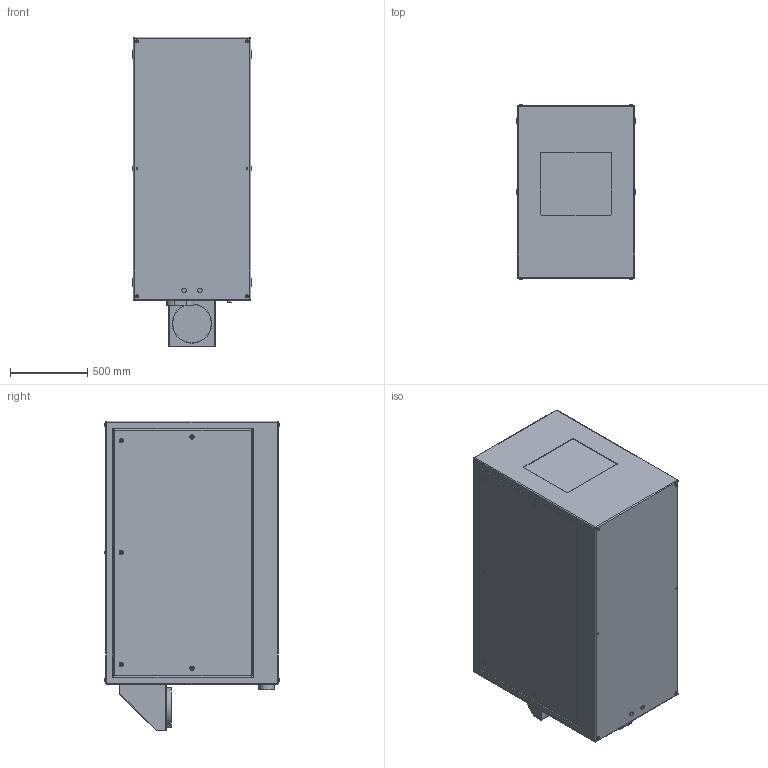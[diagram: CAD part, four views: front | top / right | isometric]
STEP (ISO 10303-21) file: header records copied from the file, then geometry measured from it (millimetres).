
FILE_DESCRIPTION (( 'STEP AP214' ), '1' );
FILE_NAME ('Cyclone 55.525.PAC.xx R08.STEP', '2020-08-12T17:48:41', ( '' ), ( '' ), 'SwSTEP 2.0', 'SolidWorks 2020', '' );
FILE_SCHEMA (( 'AUTOMOTIVE_DESIGN' ));
Length unit declared in the file: inch
Products named in the file (1): Cyclone 55.525.PAC.xx R08
Bounding box: 774.7 x 1132.33 x 2004.06 mm (x, y, z)
Volume: 1463444695.7 mm3; surface area: 11290352.7 mm2
Topology: 1 solids, 3 shells, 543 faces, 1254 edges, 782 vertices
Faces by surface type: plane 272, cylinder 197, torus 52, sphere 14, bspline 8
Entity records: 20578 total; most frequent: CARTESIAN_POINT 3104, DIRECTION 2752, ORIENTED_EDGE 2468, EDGE_CURVE 1234, AXIS2_PLACEMENT_3D 1006, VERTEX_POINT 782, VECTOR 740, LINE 740
